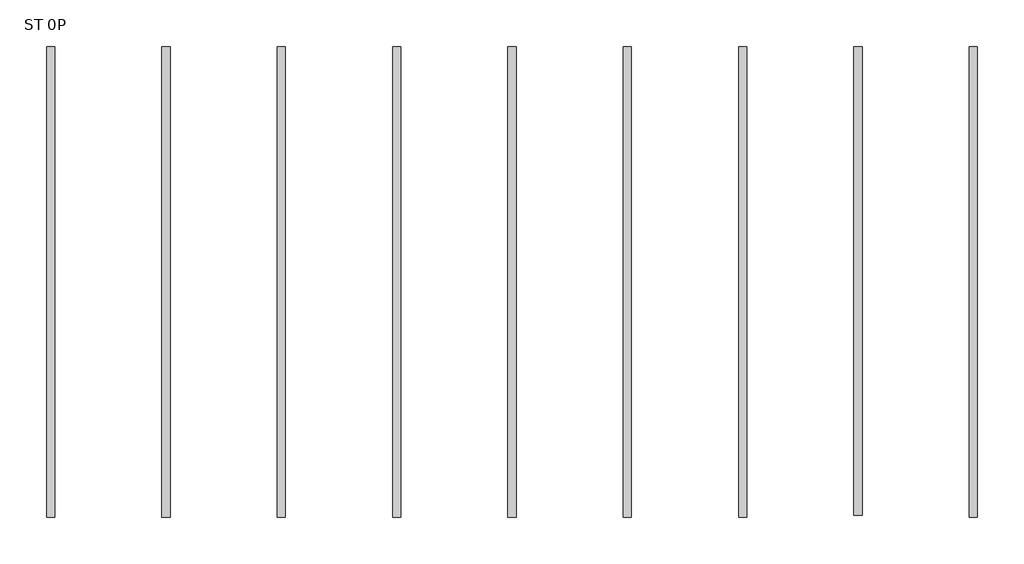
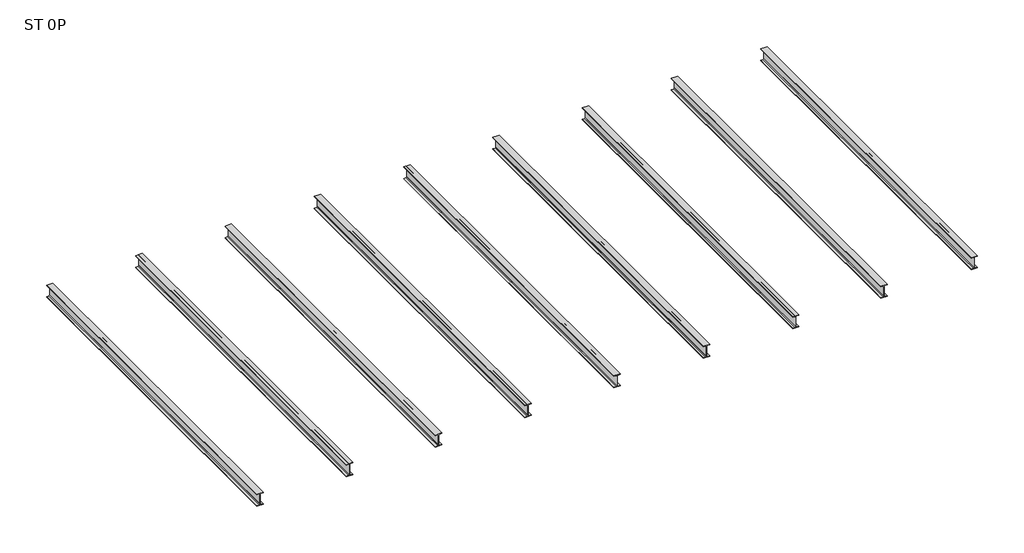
# One storey: 9 beams.
"""IFC4 building model written with IfcOpenShell, lengths in millimetres."""

import ifcopenshell
import ifcopenshell.guid

model = None  # the IFC model being written
_history = None  # IfcOwnerHistory: only IFC2X3 demands one
_inside = {}  # id of a spatial element -> (the spatial element, [elements in it])
_under = {}  # id of a project, library or spatial element -> (it, [spatial elements below it])
_declared = {}  # id of a project -> (the project, [libraries it declares])
_typed = {}  # id of a type object -> (the type object, [elements of that type])
_made_of = {}  # id of a material, layer set ... -> (it, [elements and type objects made of it])


def new_model(schema):
    """Start an empty IFC model of exactly this schema.

    Asked for "IFC4X3", IfcOpenShell would pick the latest addendum, in which some entities
    have other attributes; the version numbers below select the first issue.
    IFC2X3 requires an IfcOwnerHistory on every rooted entity: one is made here for all.
    """
    global model, _history
    if schema == "IFC4X3":
        model = ifcopenshell.file(schema_version=(4, 3, 0, 0))
    else:
        model = ifcopenshell.file(schema=schema)
    _inside.clear()
    _under.clear()
    _declared.clear()
    _typed.clear()
    _made_of.clear()
    _history = None
    if model.schema == "IFC2X3":
        org = make("IfcOrganization", Name="unknown")
        user = make(
            "IfcPersonAndOrganization",
            ThePerson=make("IfcPerson", FamilyName="unknown"),
            TheOrganization=org,
        )
        app = make(
            "IfcApplication",
            ApplicationDeveloper=org,
            Version="unknown",
            ApplicationFullName="unknown",
            ApplicationIdentifier="unknown",
        )
        _history = make(
            "IfcOwnerHistory",
            OwningUser=user,
            OwningApplication=app,
            ChangeAction="ADDED",
            CreationDate=0,
        )
    return model


def make(cls, **values):
    """One entity of the class cls with the attributes given. An attribute that is None is left unset."""
    return model.create_entity(
        cls, **{name: value for name, value in values.items() if value is not None}
    )


def rooted(cls, **values):
    """An entity with a GlobalId (a new one), such as an element, a storey or a relation."""
    return make(cls, GlobalId=ifcopenshell.guid.new(), OwnerHistory=_history, **values)


def si_unit(unit_type, name, prefix=None):
    """IfcSIUnit, for example si_unit("LENGTHUNIT", "METRE", prefix="MILLI")."""
    return make("IfcSIUnit", UnitType=unit_type, Prefix=prefix, Name=name)


def assignment(units):
    """IfcUnitAssignment: the units of a project."""
    return None if units is None else make("IfcUnitAssignment", Units=units)


def point(xyz):
    """IfcCartesianPoint."""
    return None if xyz is None else make("IfcCartesianPoint", Coordinates=xyz)


def direction(xyz):
    """IfcDirection."""
    return None if xyz is None else make("IfcDirection", DirectionRatios=xyz)


def frame(location, z_axis=None, x_axis=None):
    """IfcAxis2Placement3D, a coordinate frame: its origin and axes. An axis left out is left unset."""
    return make(
        "IfcAxis2Placement3D",
        Location=point(location),
        Axis=direction(z_axis),
        RefDirection=direction(x_axis),
    )


def frame_2d(location, x_axis=None):
    """IfcAxis2Placement2D, a coordinate frame in the plane: its origin and x axis."""
    return make(
        "IfcAxis2Placement2D", Location=point(location), RefDirection=direction(x_axis)
    )


def origin():
    """The frame at (0, 0, 0) with its axes left unset."""
    return frame((0.0, 0.0, 0.0))


def place(relative_to, where):
    """IfcLocalPlacement: puts the frame where relative to a parent placement (None: the world)."""
    return make(
        "IfcLocalPlacement", PlacementRelTo=relative_to, RelativePlacement=where
    )


def context(
    kind, dimensions, precision=None, world=None, true_north=None, identifier=None
):
    """IfcGeometricRepresentationContext, for example the 3D "Model" context."""
    return make(
        "IfcGeometricRepresentationContext",
        ContextIdentifier=identifier,
        ContextType=kind,
        CoordinateSpaceDimension=dimensions,
        Precision=precision,
        WorldCoordinateSystem=world,
        TrueNorth=true_north,
    )


def project(units=None, contexts=None):
    """IfcProject with its units and contexts."""
    return rooted(
        "IfcProject",
        Name="project",
        RepresentationContexts=contexts,
        UnitsInContext=assignment(units),
    )


def spatial(cls, under=None, at=None, **own):
    """A site, building, storey or space (cls), placed at a placement, below another one or the project."""
    s = rooted(cls, ObjectPlacement=at, **own)
    if under is not None:
        _under.setdefault(under.id(), (under, []))[1].append(s)
    return s


def polyline(points):
    """IfcPolyline through the points."""
    return make("IfcPolyline", Points=[point(p) for p in points])


def circle_curve(where, radius):
    """IfcCircle in the frame where."""
    return make("IfcCircle", Position=where, Radius=radius)


def trimmed(basis, trim1, trim2, sense, master):
    """IfcTrimmedCurve: the piece of a basis curve between two trims."""
    return make(
        "IfcTrimmedCurve",
        BasisCurve=basis,
        Trim1=trim1,
        Trim2=trim2,
        SenseAgreement=sense,
        MasterRepresentation=master,
    )


def segment(curve, same_sense, transition):
    """IfcCompositeCurveSegment."""
    return make(
        "IfcCompositeCurveSegment",
        Transition=transition,
        SameSense=same_sense,
        ParentCurve=curve,
    )


def composite_curve(segments, self_intersect=None):
    """IfcCompositeCurve: segments joined end to end."""
    return make("IfcCompositeCurve", Segments=segments, SelfIntersect=self_intersect)


def outline(outer, holes=None, kind="AREA"):
    """IfcArbitraryClosedProfileDef: a profile drawn as a closed curve; with holes, ...WithVoids."""
    if holes is None:
        return make("IfcArbitraryClosedProfileDef", ProfileType=kind, OuterCurve=outer)
    return make(
        "IfcArbitraryProfileDefWithVoids",
        ProfileType=kind,
        OuterCurve=outer,
        InnerCurves=holes,
    )


def extrude(swept, where, along, depth):
    """IfcExtrudedAreaSolid: the profile swept, set in the frame where, extruded along a direction by depth."""
    return make(
        "IfcExtrudedAreaSolid",
        SweptArea=swept,
        Position=where,
        ExtrudedDirection=direction(along),
        Depth=depth,
    )


def shape(context_of_items, identifier, shape_type, items):
    """IfcShapeRepresentation: the items that make up one representation, for example the "Body"."""
    return make(
        "IfcShapeRepresentation",
        ContextOfItems=context_of_items,
        RepresentationIdentifier=identifier,
        RepresentationType=shape_type,
        Items=items,
    )


def source(mapping_origin, context_of_items, identifier, shape_type, items):
    """IfcRepresentationMap: a shape defined once, which mapped items show again and again."""
    return make(
        "IfcRepresentationMap",
        MappingOrigin=mapping_origin,
        MappedRepresentation=shape(context_of_items, identifier, shape_type, items),
    )


def transform(
    local_origin,
    x_axis=None,
    y_axis=None,
    z_axis=None,
    scale=None,
    scale2=None,
    scale3=None,
    uniform=True,
):
    """IfcCartesianTransformationOperator3D, or its non-uniform kind. x_axis, y_axis, z_axis: its Axis1, 2, 3."""
    if uniform:
        return make(
            "IfcCartesianTransformationOperator3D",
            Axis1=direction(x_axis),
            Axis2=direction(y_axis),
            LocalOrigin=point(local_origin),
            Scale=scale,
            Axis3=direction(z_axis),
        )
    return make(
        "IfcCartesianTransformationOperator3DnonUniform",
        Axis1=direction(x_axis),
        Axis2=direction(y_axis),
        LocalOrigin=point(local_origin),
        Scale=scale,
        Axis3=direction(z_axis),
        Scale2=scale2,
        Scale3=scale3,
    )


def mapped(mapping_source, mapping_target):
    """IfcMappedItem: shows the shape of a source again, moved by a transform."""
    return make(
        "IfcMappedItem", MappingSource=mapping_source, MappingTarget=mapping_target
    )


def made_of(thing, what):
    """Note that an element or type object is made of a material, layer set ...; save() writes the relation."""
    if what is not None:
        _made_of.setdefault(what.id(), (what, []))[1].append(thing)
    return thing


def element(
    cls,
    number,
    at=None,
    inside=None,
    cuts=None,
    type_object=None,
    material=None,
    context=None,
    identifier="Body",
    shape_type=None,
    held_by="IfcProductDefinitionShape",
    body=None,
    shapes=None,
    **own,
):
    """One element of the class cls, such as IfcWall. Its Tag is "e" and its number.

    at: its placement. inside: the storey or other place that contains it. cuts: it is an
    opening in that element (IfcRelVoidsElement). A single representation is given by context,
    identifier, shape_type and body (its items); several are given by shapes. held_by: the class
    of the entity that holds the representations. save() writes the other relations.
    """
    e = rooted(cls, Tag="e%d" % number, ObjectPlacement=at, **own)
    if body is not None:
        shapes = [shape(context, identifier, shape_type, body)]
    if shapes is not None:
        e.Representation = make(held_by, Representations=shapes)
    if inside is not None:
        _inside.setdefault(inside.id(), (inside, []))[1].append(e)
    if cuts is not None:
        rooted(
            "IfcRelVoidsElement", RelatingBuildingElement=cuts, RelatedOpeningElement=e
        )
    if type_object is not None:
        _typed.setdefault(type_object.id(), (type_object, []))[1].append(e)
    return made_of(e, material)


def aggregate(whole, parts):
    """IfcRelAggregates: a whole, such as a stair, and the parts it consists of."""
    return rooted("IfcRelAggregates", RelatingObject=whole, RelatedObjects=parts)


def save(model, path):
    """Write the relations noted so far, then the file.

    IfcRelAggregates (storeys below a building ...), IfcRelContainedInSpatialStructure (elements
    in a storey), IfcRelDefinesByType, IfcRelAssociatesMaterial and IfcRelDeclares: one each for
    every whole, place, type object, material and project.
    """
    for whole, parts in _under.values():
        aggregate(whole, parts)
    for where, things in _inside.values():
        rooted(
            "IfcRelContainedInSpatialStructure",
            RelatedElements=things,
            RelatingStructure=where,
        )
    for kind, things in _typed.values():
        rooted("IfcRelDefinesByType", RelatedObjects=things, RelatingType=kind)
    for what, things in _made_of.values():
        rooted("IfcRelAssociatesMaterial", RelatedObjects=things, RelatingMaterial=what)
    for by, libraries in _declared.values():
        rooted("IfcRelDeclares", RelatingContext=by, RelatedDefinitions=libraries)
    model.write(path)


def viga_ipe_ipe_240_e01e1696(model_context):
    return source(origin(), model_context, "Body", "SweptSolid", [
        extrude(outline(composite_curve([segment(polyline([(60.0, -110.2), (60.0, -120.0), (-60.0, -120.0), (-60.0, -110.2), (-18.1, -110.2)]), True, "CONTINUOUS"), segment(trimmed(circle_curve(frame_2d((-18.1, -95.2)), 15.0), [point((-18.1, -110.2))], [point((-3.1, -95.2))], True, "CARTESIAN"), True, "CONTINUOUS"), segment(polyline([(-3.1, -95.2), (-3.1, 95.2)]), True, "CONTINUOUS"), segment(trimmed(circle_curve(frame_2d((-18.1, 95.2)), 15.0), [point((-3.1, 95.2))], [point((-18.1, 110.2))], True, "CARTESIAN"), True, "CONTINUOUS"), segment(polyline([(-18.1, 110.2), (-60.0, 110.2), (-60.0, 120.0), (60.0, 120.0), (60.0, 110.2), (18.1, 110.2)]), True, "CONTINUOUS"), segment(trimmed(circle_curve(frame_2d((18.1, 95.2)), 15.0), [point((18.1, 110.2))], [point((3.1, 95.2))], True, "CARTESIAN"), True, "CONTINUOUS"), segment(polyline([(3.1, 95.2), (3.1, -95.2)]), True, "CONTINUOUS"), segment(trimmed(circle_curve(frame_2d((18.1, -95.2)), 15.0), [point((3.1, -95.2))], [point((18.1, -110.2))], True, "CARTESIAN"), True, "CONTINUOUS"), segment(polyline([(18.1, -110.2), (60.0, -110.2)]), True, "CONTINUOUS")], self_intersect=False)), frame((-3422.0, 0.0, 0.0), z_axis=(1.0, 0.0, 0.0), x_axis=(0.0, 1.0, 0.0)), (0.0, 0.0, 1.0), 6846.0),
    ])


def viga_ipe_ipe_240_09b953ea(model_context):
    return source(origin(), model_context, "Body", "SweptSolid", [
        extrude(outline(composite_curve([segment(polyline([(60.0, -110.2), (60.0, -120.0), (-60.0, -120.0), (-60.0, -110.2), (-18.1, -110.2)]), True, "CONTINUOUS"), segment(trimmed(circle_curve(frame_2d((-18.1, -95.2)), 15.0), [point((-18.1, -110.2))], [point((-3.1, -95.2))], True, "CARTESIAN"), True, "CONTINUOUS"), segment(polyline([(-3.1, -95.2), (-3.1, 95.2)]), True, "CONTINUOUS"), segment(trimmed(circle_curve(frame_2d((-18.1, 95.2)), 15.0), [point((-3.1, 95.2))], [point((-18.1, 110.2))], True, "CARTESIAN"), True, "CONTINUOUS"), segment(polyline([(-18.1, 110.2), (-60.0, 110.2), (-60.0, 120.0), (60.0, 120.0), (60.0, 110.2), (18.1, 110.2)]), True, "CONTINUOUS"), segment(trimmed(circle_curve(frame_2d((18.1, 95.2)), 15.0), [point((18.1, 110.2))], [point((3.1, 95.2))], True, "CARTESIAN"), True, "CONTINUOUS"), segment(polyline([(3.1, 95.2), (3.1, -95.2)]), True, "CONTINUOUS"), segment(trimmed(circle_curve(frame_2d((18.1, -95.2)), 15.0), [point((3.1, -95.2))], [point((18.1, -110.2))], True, "CARTESIAN"), True, "CONTINUOUS"), segment(polyline([(18.1, -110.2), (60.0, -110.2)]), True, "CONTINUOUS")], self_intersect=False)), frame((-3421.5, 0.0, 0.0), z_axis=(1.0, 0.0, 0.0), x_axis=(0.0, 1.0, 0.0)), (0.0, 0.0, 1.0), 6845.0),
    ])


def viga_ipe_ipe_240_5b98cc35(model_context):
    return source(origin(), model_context, "Body", "SweptSolid", [
        extrude(outline(composite_curve([segment(polyline([(60.0, -110.2), (60.0, -120.0), (-60.0, -120.0), (-60.0, -110.2), (-18.1, -110.2)]), True, "CONTINUOUS"), segment(trimmed(circle_curve(frame_2d((-18.1, -95.2)), 15.0), [point((-18.1, -110.2))], [point((-3.1, -95.2))], True, "CARTESIAN"), True, "CONTINUOUS"), segment(polyline([(-3.1, -95.2), (-3.1, 95.2)]), True, "CONTINUOUS"), segment(trimmed(circle_curve(frame_2d((-18.1, 95.2)), 15.0), [point((-3.1, 95.2))], [point((-18.1, 110.2))], True, "CARTESIAN"), True, "CONTINUOUS"), segment(polyline([(-18.1, 110.2), (-60.0, 110.2), (-60.0, 120.0), (60.0, 120.0), (60.0, 110.2), (18.1, 110.2)]), True, "CONTINUOUS"), segment(trimmed(circle_curve(frame_2d((18.1, 95.2)), 15.0), [point((18.1, 110.2))], [point((3.1, 95.2))], True, "CARTESIAN"), True, "CONTINUOUS"), segment(polyline([(3.1, 95.2), (3.1, -95.2)]), True, "CONTINUOUS"), segment(trimmed(circle_curve(frame_2d((18.1, -95.2)), 15.0), [point((3.1, -95.2))], [point((18.1, -110.2))], True, "CARTESIAN"), True, "CONTINUOUS"), segment(polyline([(18.1, -110.2), (60.0, -110.2)]), True, "CONTINUOUS")], self_intersect=False)), frame((-3422.7, 0.0, 0.0), z_axis=(1.0, 0.0, 0.0), x_axis=(0.0, 1.0, 0.0)), (0.0, 0.0, 1.0), 6845.4),
    ])


def viga_ipe_ipe_240_e3ab9ce7(model_context):
    return source(origin(), model_context, "Body", "SweptSolid", [
        extrude(outline(composite_curve([segment(polyline([(60.0, -110.2), (60.0, -120.0), (-60.0, -120.0), (-60.0, -110.2), (-18.1, -110.2)]), True, "CONTINUOUS"), segment(trimmed(circle_curve(frame_2d((-18.1, -95.2)), 15.0), [point((-18.1, -110.2))], [point((-3.1, -95.2))], True, "CARTESIAN"), True, "CONTINUOUS"), segment(polyline([(-3.1, -95.2), (-3.1, 95.2)]), True, "CONTINUOUS"), segment(trimmed(circle_curve(frame_2d((-18.1, 95.2)), 15.0), [point((-3.1, 95.2))], [point((-18.1, 110.2))], True, "CARTESIAN"), True, "CONTINUOUS"), segment(polyline([(-18.1, 110.2), (-60.0, 110.2), (-60.0, 120.0), (60.0, 120.0), (60.0, 110.2), (18.1, 110.2)]), True, "CONTINUOUS"), segment(trimmed(circle_curve(frame_2d((18.1, 95.2)), 15.0), [point((18.1, 110.2))], [point((3.1, 95.2))], True, "CARTESIAN"), True, "CONTINUOUS"), segment(polyline([(3.1, 95.2), (3.1, -95.2)]), True, "CONTINUOUS"), segment(trimmed(circle_curve(frame_2d((18.1, -95.2)), 15.0), [point((3.1, -95.2))], [point((18.1, -110.2))], True, "CARTESIAN"), True, "CONTINUOUS"), segment(polyline([(18.1, -110.2), (60.0, -110.2)]), True, "CONTINUOUS")], self_intersect=False)), frame((-3407.7, 0.0, 0.0), z_axis=(1.0, 0.0, 0.0), x_axis=(0.0, 1.0, 0.0)), (0.0, 0.0, 1.0), 6815.4),
    ])


def viga_ipe_ipe_240_06474b5d(model_context):
    return source(origin(), model_context, "Body", "SweptSolid", [
        extrude(outline(composite_curve([segment(polyline([(60.0, -110.2), (60.0, -120.0), (-60.0, -120.0), (-60.0, -110.2), (-18.1, -110.2)]), True, "CONTINUOUS"), segment(trimmed(circle_curve(frame_2d((-18.1, -95.2)), 15.0), [point((-18.1, -110.2))], [point((-3.1, -95.2))], True, "CARTESIAN"), True, "CONTINUOUS"), segment(polyline([(-3.1, -95.2), (-3.1, 95.2)]), True, "CONTINUOUS"), segment(trimmed(circle_curve(frame_2d((-18.1, 95.2)), 15.0), [point((-3.1, 95.2))], [point((-18.1, 110.2))], True, "CARTESIAN"), True, "CONTINUOUS"), segment(polyline([(-18.1, 110.2), (-60.0, 110.2), (-60.0, 120.0), (60.0, 120.0), (60.0, 110.2), (18.1, 110.2)]), True, "CONTINUOUS"), segment(trimmed(circle_curve(frame_2d((18.1, 95.2)), 15.0), [point((18.1, 110.2))], [point((3.1, 95.2))], True, "CARTESIAN"), True, "CONTINUOUS"), segment(polyline([(3.1, 95.2), (3.1, -95.2)]), True, "CONTINUOUS"), segment(trimmed(circle_curve(frame_2d((18.1, -95.2)), 15.0), [point((3.1, -95.2))], [point((18.1, -110.2))], True, "CARTESIAN"), True, "CONTINUOUS"), segment(polyline([(18.1, -110.2), (60.0, -110.2)]), True, "CONTINUOUS")], self_intersect=False)), frame((-3435.5, 0.0, 0.0), z_axis=(1.0, 0.0, 0.0), x_axis=(0.0, 1.0, 0.0)), (0.0, 0.0, 1.0), 6845.0),
    ])


model = new_model("IFC4")

# Units and contexts
model_context = context("Model", 3, world=origin())
ifc_project = project(units=[si_unit("LENGTHUNIT", "METRE", prefix="MILLI")], contexts=[model_context])

# Site, building, storey
site = spatial("IfcSite", under=ifc_project)
building = spatial("IfcBuilding", under=site)
storey = spatial("IfcBuildingStorey", under=building, Name="ST 0P", Elevation=655.0)

# Beams
placement = place(None, origin())
viga_ipe_ipe_240_shape = viga_ipe_ipe_240_e01e1696(model_context)
element("IfcBeam", 1, ObjectType="Viga IPE : IPE 240", at=placement, inside=storey, context=model_context, shape_type="MappedRepresentation", body=[
    mapped(viga_ipe_ipe_240_shape, transform((-14227.0118347, -7147.5405378, 535.0), x_axis=(0.0, 1.0, 0.0), y_axis=(-1.0, 0.0, 0.0), z_axis=(0.0, 0.0, 1.0))),
])
viga_ipe_ipe_240_2_shape = viga_ipe_ipe_240_09b953ea(model_context)
element("IfcBeam", 2, ObjectType="Viga IPE : IPE 240", at=placement, inside=storey, context=model_context, shape_type="MappedRepresentation", body=[
    mapped(viga_ipe_ipe_240_2_shape, transform((-809.4601106, -7147.3377977, 535.0), x_axis=(0.0, 1.0, 0.0), y_axis=(-1.0, 0.0, 0.0), z_axis=(0.0, 0.0, 1.0))),
])
viga_ipe_ipe_240_3_shape = viga_ipe_ipe_240_5b98cc35(model_context)
element("IfcBeam", 3, ObjectType="Viga IPE : IPE 240", at=placement, inside=storey, context=model_context, shape_type="MappedRepresentation", body=[
    mapped(viga_ipe_ipe_240_3_shape, transform((-12549.8178692, -7146.4843494, 535.0), x_axis=(0.0, 1.0, 0.0), y_axis=(-1.0, 0.0, 0.0), z_axis=(0.0, 0.0, 1.0))),
])
element("IfcBeam", 4, ObjectType="Viga IPE : IPE 240", at=placement, inside=storey, context=model_context, shape_type="MappedRepresentation", body=[
    mapped(viga_ipe_ipe_240_3_shape, transform((-10872.6239037, -7146.4843494, 535.0), x_axis=(0.0, 1.0, 0.0), y_axis=(-1.0, 0.0, 0.0), z_axis=(0.0, 0.0, 1.0))),
])
element("IfcBeam", 5, ObjectType="Viga IPE : IPE 240", at=placement, inside=storey, context=model_context, shape_type="MappedRepresentation", body=[
    mapped(viga_ipe_ipe_240_3_shape, transform((-9195.4299382, -7146.4843494, 535.0), x_axis=(0.0, 1.0, 0.0), y_axis=(-1.0, 0.0, 0.0), z_axis=(0.0, 0.0, 1.0))),
])
element("IfcBeam", 6, ObjectType="Viga IPE : IPE 240", at=placement, inside=storey, context=model_context, shape_type="MappedRepresentation", body=[
    mapped(viga_ipe_ipe_240_3_shape, transform((-5841.0420071, -7146.4843494, 535.0), x_axis=(0.0, 1.0, 0.0), y_axis=(-1.0, 0.0, 0.0), z_axis=(0.0, 0.0, 1.0))),
])
element("IfcBeam", 7, ObjectType="Viga IPE : IPE 240", at=placement, inside=storey, context=model_context, shape_type="MappedRepresentation", body=[
    mapped(viga_ipe_ipe_240_3_shape, transform((-4163.8480416, -7146.4843494, 535.0), x_axis=(0.0, 1.0, 0.0), y_axis=(-1.0, 0.0, 0.0), z_axis=(0.0, 0.0, 1.0))),
])
viga_ipe_ipe_240_4_shape = viga_ipe_ipe_240_e3ab9ce7(model_context)
element("IfcBeam", 8, ObjectType="Viga IPE : IPE 240", at=placement, inside=storey, context=model_context, shape_type="MappedRepresentation", body=[
    mapped(viga_ipe_ipe_240_4_shape, transform((-2486.6540761, -7131.0309012, 535.0), x_axis=(0.0, 1.0, 0.0), y_axis=(-1.0, 0.0, 0.0), z_axis=(0.0, 0.0, 1.0))),
])
viga_ipe_ipe_240_5_shape = viga_ipe_ipe_240_06474b5d(model_context)
element("IfcBeam", 9, ObjectType="Viga IPE : IPE 240", at=placement, inside=storey, context=model_context, shape_type="MappedRepresentation", body=[
    mapped(viga_ipe_ipe_240_5_shape, transform((-7518.2359727, -7133.5309012, 535.0), x_axis=(0.0, 1.0, 0.0), y_axis=(-1.0, 0.0, 0.0), z_axis=(0.0, 0.0, 1.0))),
])

save(model, "model.ifc")
